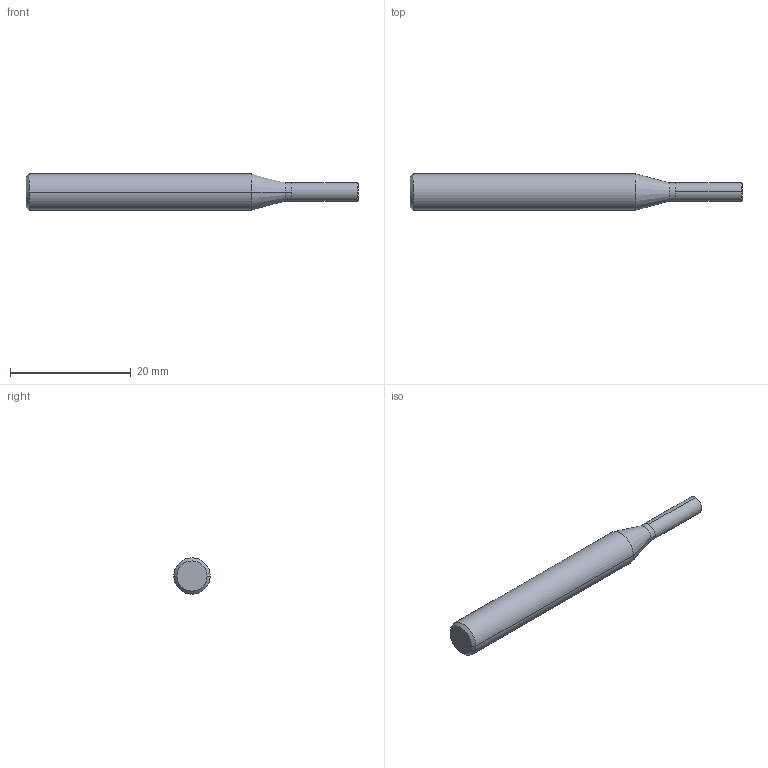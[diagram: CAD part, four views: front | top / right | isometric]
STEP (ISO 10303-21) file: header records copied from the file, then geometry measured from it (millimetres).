
FILE_DESCRIPTION (( 'STEP AP214' ), '1' );
FILE_NAME ('GM99940656.STEP', '2021-02-19T08:53:22', ( 'USER' ), ( 'Hewlett-Packard Company' ), 'SwSTEP 2.0', 'SolidWorks 2014', '' );
FILE_SCHEMA (( 'AUTOMOTIVE_DESIGN' ));
Length unit declared in the file: millimetre
Products named in the file (1): GM99940656
Bounding box: 55 x 6 x 6 mm (x, y, z)
Volume: 1232.4 mm3; surface area: 943.1 mm2
Topology: 2 solids, 2 shells, 16 faces, 28 edges, 16 vertices
Faces by surface type: cylinder 6, cone 6, plane 4
Entity records: 493 total; most frequent: DIRECTION 78, CARTESIAN_POINT 61, ORIENTED_EDGE 56, AXIS2_PLACEMENT_3D 33, EDGE_CURVE 28, CIRCLE 16, VERTEX_POINT 16, EDGE_LOOP 16
